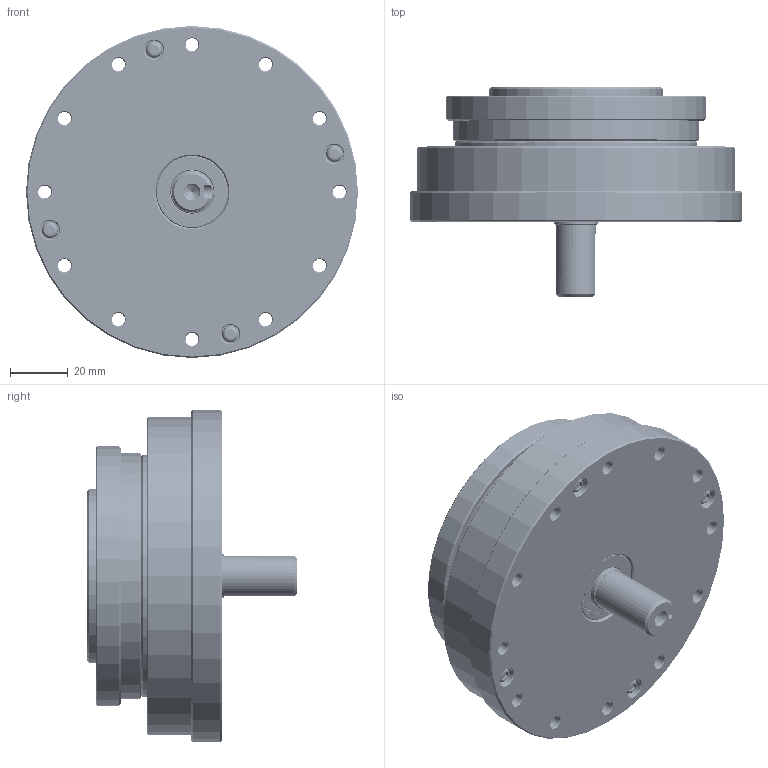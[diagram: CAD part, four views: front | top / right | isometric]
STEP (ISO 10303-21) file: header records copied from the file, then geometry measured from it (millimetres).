
FILE_DESCRIPTION(/* description */ (''),/* implementation_level */ '2;1');
FILE_NAME(/* name */ 'XBJ25成品图.prt.stp',/* time_stamp */ '2022-07-21T18:19:13+08:00',/* author */ (''),/* organization */ (''),/* preprocessor_version */ 'ST-DEVELOPER v16',/* originating_system */ 'SIEMENS PLM Software NX 10.0',/* authorisation */ '');
FILE_SCHEMA (('CONFIG_CONTROL_DESIGN'));
Products named in the file (21): 25-保持架; M2.5X6; XBK25-4-1-1销子; M3X16; YM3X10; 平键销5X12; G15255; XBJ25-3-1凸轮; XBJ25-5输入轴; 深沟球轴承6900-ZZ; XBJ25-6上盖板; XBK25-1钢轮; 内卡簧φ32X1.2; 深沟球轴承6002-RZ; XBJ25-7下盖板; 84X94X5骨架油封; XBK25-4-2外圈; XBK25-2柔轮; 25-柔性轴承_MODEL; XBK25-4-1内芯_MODEL; XBJ25成品图
Assembly tree (26 placements, depth 3):
  XBJ25成品图
    XBK25-2柔轮
    XBK25-4-2外圈
    XBK25-4-1内芯_MODEL
      XBK25-4-1-1销子
      M2.5X6
    84X94X5骨架油封
    XBJ25-7下盖板
    深沟球轴承6002-RZ
    内卡簧φ32X1.2
    XBK25-1钢轮
    XBJ25-6上盖板
    深沟球轴承6900-ZZ
    XBJ25-5输入轴
    25-柔性轴承_MODEL
      25-保持架
    XBJ25-3-1凸轮
    G15255
    平键销5X12
    YM3X10  x4
    M3X16  x4
Bounding box: 115 x 72.5 x 115 mm (x, y, z)
Volume: 261921.9 mm3; surface area: 172690.8 mm2
Topology: 78 solids, 78 shells, 1402 faces, 3429 edges, 2199 vertices
Faces by surface type: plane 487, cylinder 336, cone 319, bspline 108, extrusion 73, sphere 49, torus 30
Full cylindrical faces by diameter (mm): 1.3 x2, 2.5 x4, 3 x1, 3.5 x16, 4.5 x68, 4.7 x1, 5 x1, 5.6 x4, 5.68 x4, 6 x8, 6.5 x4, 10 x2, 13.4 x2, 14 x2, 15 x3, 18 x1, 19 x2, 19.6 x2, 20 x2, 22 x5, 25 x2, 29 x2, 32 x3, 33.7 x1, 40 x1, 43.7 x1, 45.212 x1, 46.7 x1, 47.3 x1, 48.412 x2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
Entity records: 159405 total; most frequent: CARTESIAN_POINT 131082, DIRECTION 4929, ORIENTED_EDGE 4732, EDGE_CURVE 2366, AXIS2_PLACEMENT_3D 2133, EDGE_LOOP 2012, VERTEX_POINT 1835, FACE_BOUND 1430
